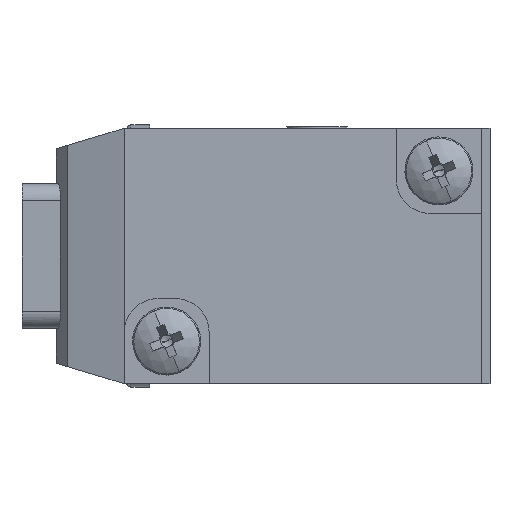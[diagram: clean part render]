
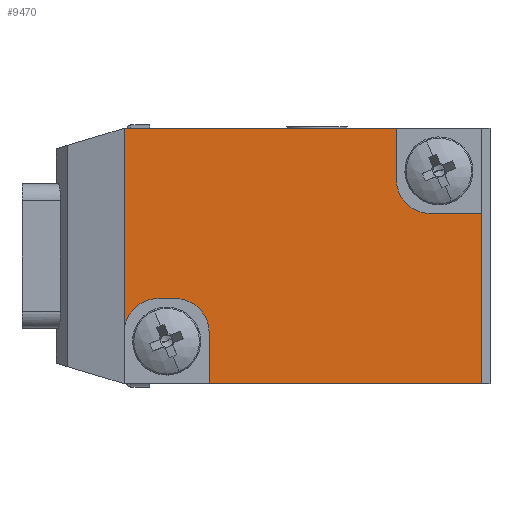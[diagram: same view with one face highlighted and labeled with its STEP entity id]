
A CAD part, left-side view. The second image highlights one B-rep face of the part: STEP entity #9470.
In plain terms, the highlighted planar face has unit normal (-1, 0, 0) as drawn and (1, 0, 0) by its records, which use the part's own axes.
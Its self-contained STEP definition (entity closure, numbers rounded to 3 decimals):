
#10 = DIRECTION ( 'NONE',  ( 0., 1., 0. ) ) ;
#246 = VERTEX_POINT ( 'NONE', #8391 ) ;
#327 = EDGE_CURVE ( 'NONE', #9490, #1835, #4353, .T. ) ;
#395 = ORIENTED_EDGE ( 'NONE', *, *, #1584, .T. ) ;
#736 = CARTESIAN_POINT ( 'NONE',  ( 18.25, -12.5, 7.5 ) ) ;
#860 = CARTESIAN_POINT ( 'NONE',  ( 18.25, -12.5, 7.5 ) ) ;
#901 = EDGE_LOOP ( 'NONE', ( #5729, #8648, #3801, #5237, #3898, #395, #7130, #4443, #8584, #3815, #5670 ) ) ;
#1243 = EDGE_CURVE ( 'NONE', #5384, #8022, #2364, .T. ) ;
#1246 = VERTEX_POINT ( 'NONE', #6030 ) ;
#1410 = CARTESIAN_POINT ( 'NONE',  ( 18.25, 6.5, 4.5 ) ) ;
#1425 = VECTOR ( 'NONE', #1639, 1000. ) ;
#1584 = EDGE_CURVE ( 'NONE', #246, #8528, #7776, .T. ) ;
#1610 = DIRECTION ( 'NONE',  ( 0., 1., 0. ) ) ;
#1639 = DIRECTION ( 'NONE',  ( 0., 0., 1. ) ) ;
#1683 = VECTOR ( 'NONE', #8712, 1000. ) ;
#1788 = CARTESIAN_POINT ( 'NONE',  ( 18.25, 8.5, 4.5 ) ) ;
#1795 = CARTESIAN_POINT ( 'NONE',  ( 18.25, -7.5, -4.5 ) ) ;
#1835 = VERTEX_POINT ( 'NONE', #1795 ) ;
#1854 = VERTEX_POINT ( 'NONE', #8461 ) ;
#1902 = VERTEX_POINT ( 'NONE', #5702 ) ;
#1917 = VECTOR ( 'NONE', #3046, 1000. ) ;
#1974 = CARTESIAN_POINT ( 'NONE',  ( 18.25, 3.5, 7.5 ) ) ;
#2060 = LINE ( 'NONE', #3841, #7142 ) ;
#2097 = DIRECTION ( 'NONE',  ( -1., 0., 0. ) ) ;
#2116 = CARTESIAN_POINT ( 'NONE',  ( 18.25, -12.5, -2.5 ) ) ;
#2146 = VECTOR ( 'NONE', #4270, 1000. ) ;
#2364 = LINE ( 'NONE', #860, #3186 ) ;
#2703 = CARTESIAN_POINT ( 'NONE',  ( 18.25, -12.5, -7.5 ) ) ;
#2845 = VERTEX_POINT ( 'NONE', #4917 ) ;
#2914 = EDGE_CURVE ( 'NONE', #1246, #1835, #9064, .T. ) ;
#3021 = DIRECTION ( 'NONE',  ( -1., 0., 0. ) ) ;
#3046 = DIRECTION ( 'NONE',  ( 0., 0., -1. ) ) ;
#3099 = LINE ( 'NONE', #736, #1917 ) ;
#3186 = VECTOR ( 'NONE', #1610, 1000. ) ;
#3272 = DIRECTION ( 'NONE',  ( 0., 0., 1. ) ) ;
#3321 = EDGE_CURVE ( 'NONE', #8528, #2845, #5836, .T. ) ;
#3419 = EDGE_CURVE ( 'NONE', #5384, #1854, #3099, .T. ) ;
#3608 = CARTESIAN_POINT ( 'NONE',  ( 18.25, -9.5, -2.5 ) ) ;
#3801 = ORIENTED_EDGE ( 'NONE', *, *, #327, .T. ) ;
#3815 = ORIENTED_EDGE ( 'NONE', *, *, #7050, .F. ) ;
#3828 = AXIS2_PLACEMENT_3D ( 'NONE', #1410, #3021, #5925 ) ;
#3841 = CARTESIAN_POINT ( 'NONE',  ( 18.25, 8.5, 2.5 ) ) ;
#3898 = ORIENTED_EDGE ( 'NONE', *, *, #4763, .T. ) ;
#4040 = VERTEX_POINT ( 'NONE', #6512 ) ;
#4062 = DIRECTION ( 'NONE',  ( -1., 0., 0. ) ) ;
#4202 = CARTESIAN_POINT ( 'NONE',  ( 18.25, -7.5, -7.5 ) ) ;
#4251 = DIRECTION ( 'NONE',  ( -1., 0., 0. ) ) ;
#4270 = DIRECTION ( 'NONE',  ( 0., 1., 0. ) ) ;
#4286 = DIRECTION ( 'NONE',  ( 0., 0., 1. ) ) ;
#4353 = CIRCLE ( 'NONE', #8680, 2. ) ;
#4443 = ORIENTED_EDGE ( 'NONE', *, *, #5918, .F. ) ;
#4695 = VECTOR ( 'NONE', #8389, 1000. ) ;
#4746 = AXIS2_PLACEMENT_3D ( 'NONE', #8777, #4251, #5086 ) ;
#4763 = EDGE_CURVE ( 'NONE', #1246, #246, #5138, .T. ) ;
#4917 = CARTESIAN_POINT ( 'NONE',  ( 18.25, 6.5, 2.5 ) ) ;
#5086 = DIRECTION ( 'NONE',  ( 0., 0., 1. ) ) ;
#5138 = LINE ( 'NONE', #2703, #2146 ) ;
#5237 = ORIENTED_EDGE ( 'NONE', *, *, #2914, .F. ) ;
#5364 = CARTESIAN_POINT ( 'NONE',  ( 18.25, 8.5, 7.5 ) ) ;
#5384 = VERTEX_POINT ( 'NONE', #5557 ) ;
#5498 = LINE ( 'NONE', #6827, #4695 ) ;
#5557 = CARTESIAN_POINT ( 'NONE',  ( 18.25, -12.5, 7.5 ) ) ;
#5614 = CARTESIAN_POINT ( 'NONE',  ( 18.25, -9.5, -4.5 ) ) ;
#5670 = ORIENTED_EDGE ( 'NONE', *, *, #1243, .F. ) ;
#5702 = CARTESIAN_POINT ( 'NONE',  ( 18.25, 3.5, 4.5 ) ) ;
#5729 = ORIENTED_EDGE ( 'NONE', *, *, #3419, .T. ) ;
#5836 = CIRCLE ( 'NONE', #3828, 2. ) ;
#5918 = EDGE_CURVE ( 'NONE', #4040, #2845, #2060, .T. ) ;
#5925 = DIRECTION ( 'NONE',  ( 0., 0., 1. ) ) ;
#6030 = CARTESIAN_POINT ( 'NONE',  ( 18.25, -7.5, -7.5 ) ) ;
#6512 = CARTESIAN_POINT ( 'NONE',  ( 18.25, 5.5, 2.5 ) ) ;
#6820 = FACE_OUTER_BOUND ( 'NONE', #901, .T. ) ;
#6827 = CARTESIAN_POINT ( 'NONE',  ( 18.25, 3.5, 7.5 ) ) ;
#6828 = EDGE_CURVE ( 'NONE', #9490, #1854, #8765, .T. ) ;
#6960 = AXIS2_PLACEMENT_3D ( 'NONE', #8698, #2097, #4286 ) ;
#7030 = CIRCLE ( 'NONE', #4746, 2. ) ;
#7050 = EDGE_CURVE ( 'NONE', #8022, #1902, #5498, .T. ) ;
#7130 = ORIENTED_EDGE ( 'NONE', *, *, #3321, .T. ) ;
#7142 = VECTOR ( 'NONE', #10, 1000. ) ;
#7776 = LINE ( 'NONE', #5364, #1425 ) ;
#7955 = PLANE ( 'NONE',  #6960 ) ;
#8022 = VERTEX_POINT ( 'NONE', #1974 ) ;
#8135 = EDGE_CURVE ( 'NONE', #4040, #1902, #7030, .T. ) ;
#8360 = VECTOR ( 'NONE', #9377, 1000. ) ;
#8389 = DIRECTION ( 'NONE',  ( 0., 0., -1. ) ) ;
#8391 = CARTESIAN_POINT ( 'NONE',  ( 18.25, 8.5, -7.5 ) ) ;
#8461 = CARTESIAN_POINT ( 'NONE',  ( 18.25, -12.5, -2.5 ) ) ;
#8528 = VERTEX_POINT ( 'NONE', #1788 ) ;
#8584 = ORIENTED_EDGE ( 'NONE', *, *, #8135, .T. ) ;
#8648 = ORIENTED_EDGE ( 'NONE', *, *, #6828, .F. ) ;
#8680 = AXIS2_PLACEMENT_3D ( 'NONE', #5614, #4062, #3272 ) ;
#8698 = CARTESIAN_POINT ( 'NONE',  ( 18.25, -12.5, 7.5 ) ) ;
#8712 = DIRECTION ( 'NONE',  ( 0., -1., 0. ) ) ;
#8765 = LINE ( 'NONE', #2116, #1683 ) ;
#8777 = CARTESIAN_POINT ( 'NONE',  ( 18.25, 5.5, 4.5 ) ) ;
#9064 = LINE ( 'NONE', #4202, #8360 ) ;
#9377 = DIRECTION ( 'NONE',  ( 0., 0., 1. ) ) ;
#9470 = ADVANCED_FACE ( 'NONE', ( #6820 ), #7955, .F. ) ;
#9490 = VERTEX_POINT ( 'NONE', #3608 ) ;
